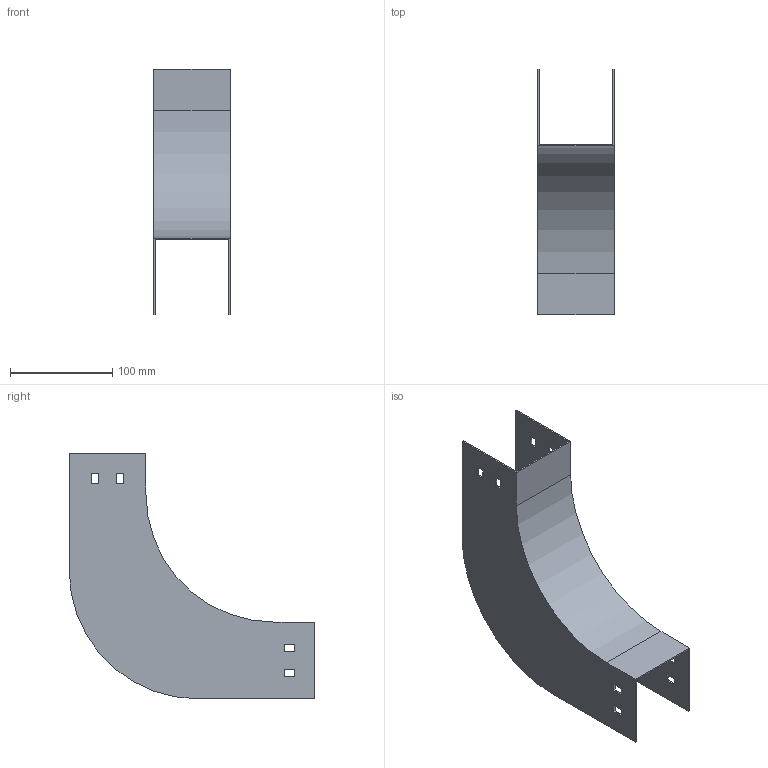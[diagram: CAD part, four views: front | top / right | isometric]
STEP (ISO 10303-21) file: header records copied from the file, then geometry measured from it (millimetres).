
FILE_DESCRIPTION (( 'STEP AP214' ), '1' );
FILE_NAME ('D9_077.step', '2025-07-16T09:08:07', ( '' ), ( '' ), 'SwSTEP 2.0', 'SolidWorks 2023', '' );
FILE_SCHEMA (( 'AUTOMOTIVE_DESIGN' ));
Length unit declared in the file: millimetre
Products named in the file (1): D9_077
Bounding box: 75 x 240 x 240 mm (x, y, z)
Volume: 120258 mm3; surface area: 162693.5 mm2
Topology: 1 solids, 1 shells, 50 faces, 144 edges, 96 vertices
Faces by surface type: plane 46, cylinder 4
Entity records: 1671 total; most frequent: CARTESIAN_POINT 291, ORIENTED_EDGE 288, DIRECTION 254, EDGE_CURVE 144, LINE 136, VECTOR 136, VERTEX_POINT 96, EDGE_LOOP 66
